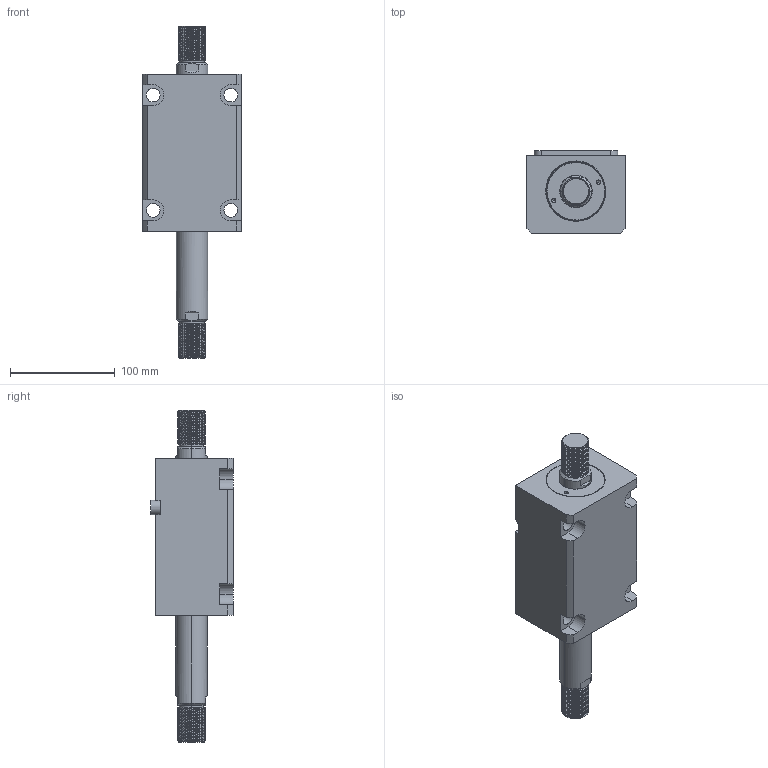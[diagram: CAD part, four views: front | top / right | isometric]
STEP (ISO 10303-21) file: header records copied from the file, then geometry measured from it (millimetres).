
FILE_DESCRIPTION (( 'STEP AP203' ), '1' );
FILE_NAME ('CHTB-LWM50-75W.STEP', '2018-05-22T07:02:31', ( '' ), ( '' ), 'SwSTEP 2.0', 'SolidWorks 2015', '' );
FILE_SCHEMA (( 'CONFIG_CONTROL_DESIGN' ));
Length unit declared in the file: millimetre
Products named in the file (4): CHTM-SDMA50QG; CHTB-LWM50-75W; 活塞杆LWM50-75W; 掛极LWM50-75W
Assembly tree (3 placements, depth 2):
  CHTB-LWM50-75W
    掛极LWM50-75W
    CHTM-SDMA50QG
    活塞杆LWM50-75W
Bounding box: 94 x 79 x 317 mm (x, y, z)
Volume: 997890.5 mm3; surface area: 150533.2 mm2
Topology: 3 solids, 3 shells, 302 faces, 837 edges, 557 vertices
Faces by surface type: cylinder 188, plane 62, cone 18, bspline 18, torus 16
Entity records: 19248 total; most frequent: CARTESIAN_POINT 11864, ORIENTED_EDGE 1666, DIRECTION 1265, EDGE_CURVE 833, VERTEX_POINT 557, AXIS2_PLACEMENT_3D 483, EDGE_LOOP 338, ADVANCED_FACE 302
